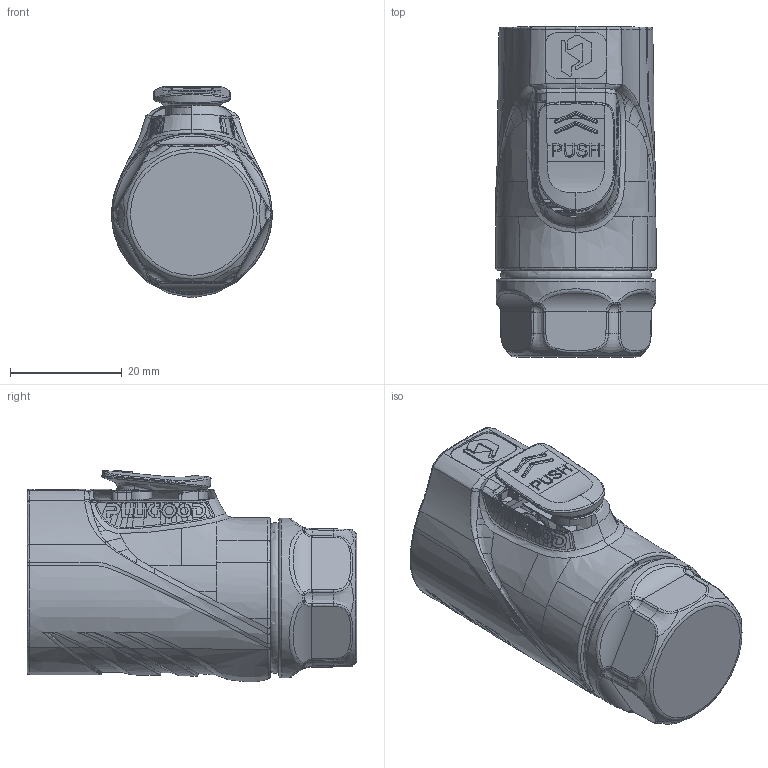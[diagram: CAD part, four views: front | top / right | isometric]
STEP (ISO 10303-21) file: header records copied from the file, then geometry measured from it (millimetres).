
FILE_DESCRIPTION (( 'STEP AP203' ), '1' );
FILE_NAME ('PLG20 16Ð¾²åÍ·.STEP', '2025-03-20T02:25:45', ( '' ), ( '' ), 'SwSTEP 2.0', 'SolidWorks 2024', '' );
FILE_SCHEMA (( 'CONFIG_CONTROL_DESIGN' ));
Products named in the file (1): PLG20 16芯插头
Bounding box: 28.77 x 59.1 x 37.93 mm (x, y, z)
Topology: 2 solids, 6 shells, 1440 faces, 3890 edges, 2498 vertices
Faces by surface type: bspline 773, plane 397, cylinder 154, torus 52, cone 38, sphere 26
Full cylindrical faces by diameter (mm): 1 x16, 1.2 x16, 1.5 x2, 1.519 x1, 1.6 x2, 2.5 x1, 2.65 x1, 4.5 x1, 16.2 x1, 17.5 x1, 17.6 x1, 19.2 x2, 19.3 x2, 19.4 x2, 22.148 x7, 28.6 x1
Entity records: 103494 total; most frequent: CARTESIAN_POINT 75031, ORIENTED_EDGE 7324, EDGE_CURVE 3662, DIRECTION 3361, VERTEX_POINT 2393, B_SPLINE_CURVE_WITH_KNOTS 2012, EDGE_LOOP 1595, FACE_OUTER_BOUND 1500
